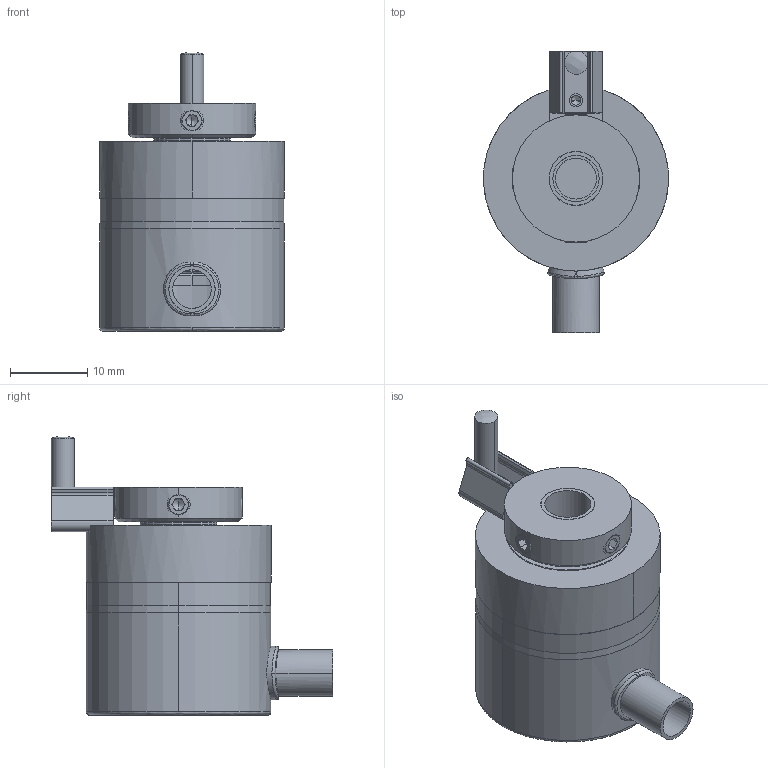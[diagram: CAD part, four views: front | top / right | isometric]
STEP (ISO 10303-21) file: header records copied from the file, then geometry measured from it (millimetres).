
FILE_DESCRIPTION (( 'STEP AP203' ), '1' );
FILE_NAME ('8.2440.12X2.XXXX.STEP', '2013-03-26T06:51:17', ( 'Hodot' ), ( '' ), 'SwSTEP 2.0', 'SolidWorks 2012', '' );
FILE_SCHEMA (( 'CONFIG_CONTROL_DESIGN' ));
Length unit declared in the file: millimetre
Products named in the file (1): 8.2440.12X2.XXXX
Bounding box: 24 x 36.48 x 36.18 mm (x, y, z)
Volume: 6055.9 mm3; surface area: 9764.7 mm2
Topology: 12 solids, 12 shells, 311 faces, 751 edges, 470 vertices
Faces by surface type: cylinder 113, plane 113, cone 52, bspline 33
Entity records: 11315 total; most frequent: CARTESIAN_POINT 4058, DIRECTION 1531, ORIENTED_EDGE 1476, EDGE_CURVE 738, AXIS2_PLACEMENT_3D 607, VERTEX_POINT 470, EDGE_LOOP 352, CIRCLE 328
